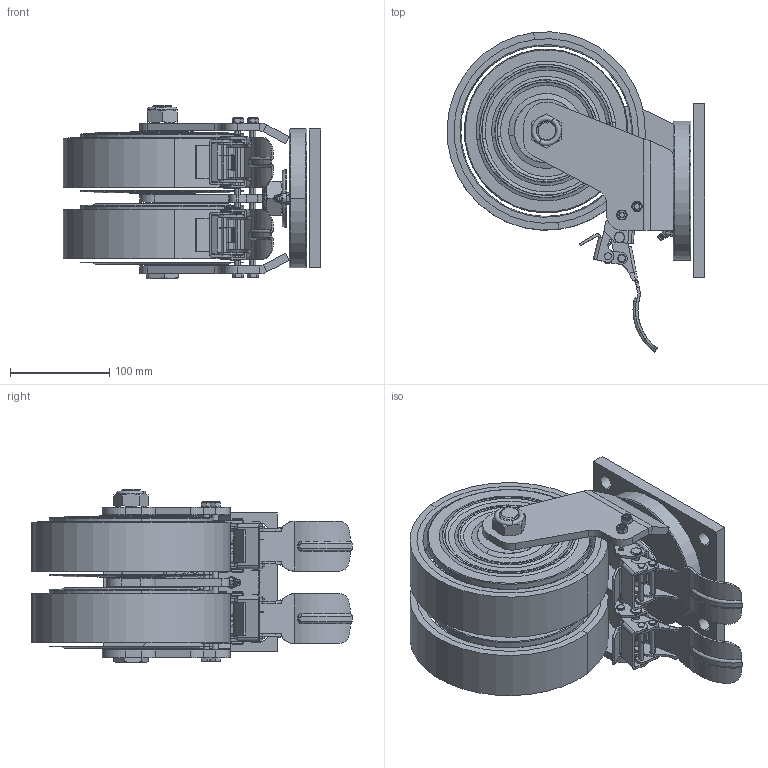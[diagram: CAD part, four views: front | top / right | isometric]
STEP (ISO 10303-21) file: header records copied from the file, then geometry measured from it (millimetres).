
FILE_DESCRIPTION((''),'2;1');
FILE_NAME('PRT0011','2025-05-08T14:32:40',('Administrator'),(''),'CREO PARAMETRIC BY PTC INC, 2022124','CREO PARAMETRIC BY PTC INC, 2022124','');
FILE_SCHEMA(('AP203_CONFIGURATION_CONTROLLED_3D_DESIGN_OF_MECHANICAL_PARTS_AND_ASSEMBLIES_MIM_LF { 1 0 10303 403 2 1 2 }'));
Length unit declared in the file: millimetre
Products named in the file (1): PRT0011
Bounding box: 259.88 x 322.64 x 175 mm (x, y, z)
Surface area: 464193.8 mm2 (no closed solid volume)
Topology: 0 solids, 78 shells, 632 faces, 2189 edges, 1608 vertices
Faces by surface type: plane 254, cylinder 170, cone 101, torus 75, bspline 32
Entity records: 40389 total; most frequent: CARTESIAN_POINT 17189, DIRECTION 4038, ORIENTED_EDGE 3379, EDGE_CURVE 2189, AXIS2_PLACEMENT_3D 1626, VERTEX_POINT 1608, CIRCLE 1016, VECTOR 783
